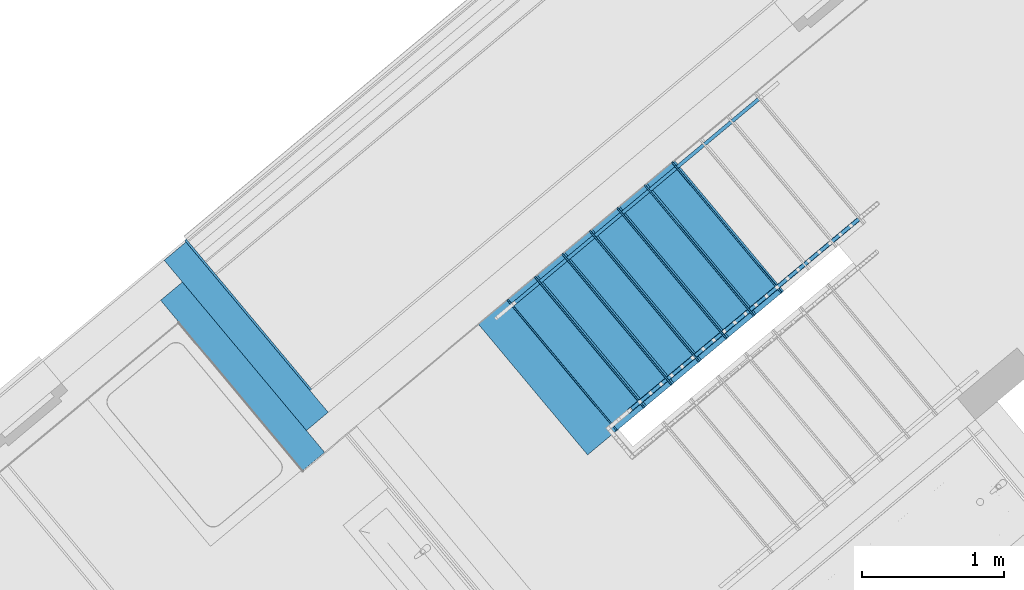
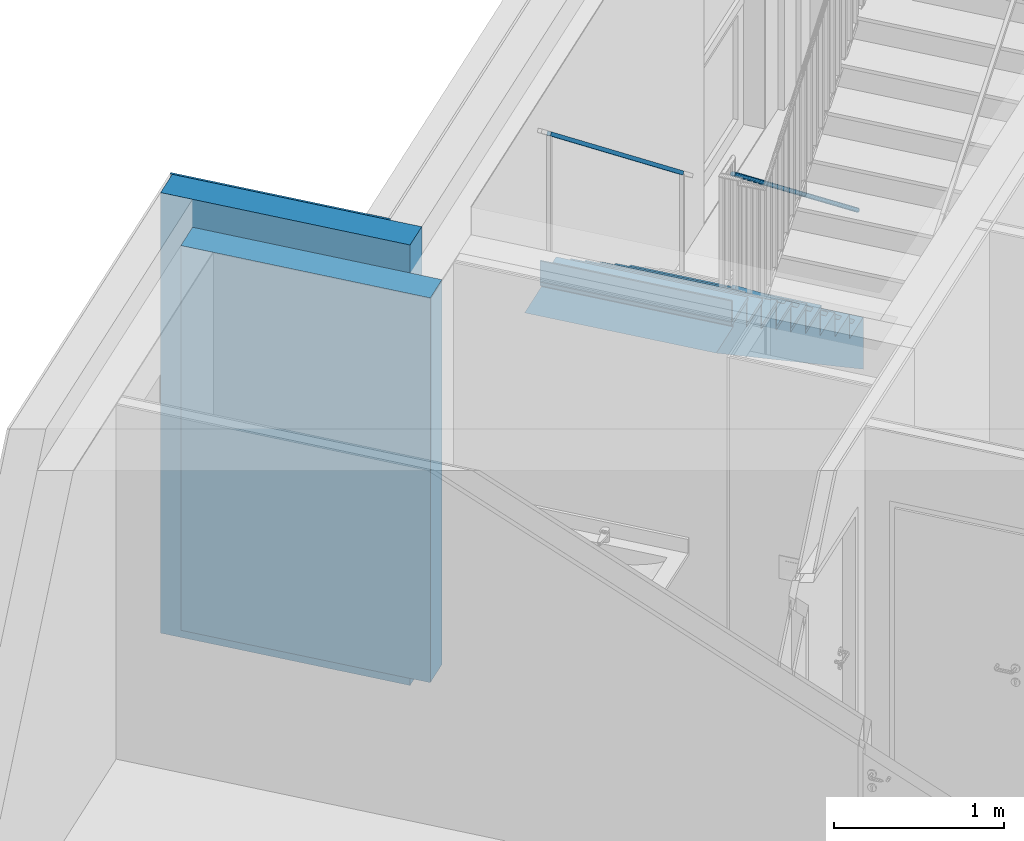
# One storey, part 30 of 50: 20 building element parts, 4 elements without a shape of their own.
"""IFC4 building model written with IfcOpenShell, lengths in metres."""

import ifcopenshell
import ifcopenshell.guid

model = None  # the IFC model being written
_history = None  # IfcOwnerHistory: only IFC2X3 demands one
_inside = {}  # id of a spatial element -> (the spatial element, [elements in it])
_under = {}  # id of a project, library or spatial element -> (it, [spatial elements below it])
_declared = {}  # id of a project -> (the project, [libraries it declares])
_typed = {}  # id of a type object -> (the type object, [elements of that type])
_made_of = {}  # id of a material, layer set ... -> (it, [elements and type objects made of it])


def new_model(schema):
    """Start an empty IFC model of exactly this schema.

    Asked for "IFC4X3", IfcOpenShell would pick the latest addendum, in which some entities
    have other attributes; the version numbers below select the first issue.
    IFC2X3 requires an IfcOwnerHistory on every rooted entity: one is made here for all.
    """
    global model, _history
    if schema == "IFC4X3":
        model = ifcopenshell.file(schema_version=(4, 3, 0, 0))
    else:
        model = ifcopenshell.file(schema=schema)
    _inside.clear()
    _under.clear()
    _declared.clear()
    _typed.clear()
    _made_of.clear()
    _history = None
    if model.schema == "IFC2X3":
        org = make("IfcOrganization", Name="unknown")
        user = make(
            "IfcPersonAndOrganization",
            ThePerson=make("IfcPerson", FamilyName="unknown"),
            TheOrganization=org,
        )
        app = make(
            "IfcApplication",
            ApplicationDeveloper=org,
            Version="unknown",
            ApplicationFullName="unknown",
            ApplicationIdentifier="unknown",
        )
        _history = make(
            "IfcOwnerHistory",
            OwningUser=user,
            OwningApplication=app,
            ChangeAction="ADDED",
            CreationDate=0,
        )
    return model


def make(cls, **values):
    """One entity of the class cls with the attributes given. An attribute that is None is left unset."""
    return model.create_entity(
        cls, **{name: value for name, value in values.items() if value is not None}
    )


def entity(cls, *values):
    """Any entity or typed value of the class cls, its attributes in the order of the schema. None: left unset."""
    e = model.create_entity(cls)
    for i, value in enumerate(values):
        if value is not None:
            e[i] = value
    return e


def rooted(cls, **values):
    """An entity with a GlobalId (a new one), such as an element, a storey or a relation."""
    return make(cls, GlobalId=ifcopenshell.guid.new(), OwnerHistory=_history, **values)


def si_unit(unit_type, name, prefix=None):
    """IfcSIUnit, for example si_unit("LENGTHUNIT", "METRE", prefix="MILLI")."""
    return make("IfcSIUnit", UnitType=unit_type, Prefix=prefix, Name=name)


def converted_unit(unit_type, name, factor, base, dimensions=None, offset=None):
    """IfcConversionBasedUnit, such as the inch: factor (a typed value) times the base unit."""
    return make(
        "IfcConversionBasedUnit"
        if offset is None
        else "IfcConversionBasedUnitWithOffset",
        ConversionOffset=offset,
        Dimensions=None
        if dimensions is None
        else entity("IfcDimensionalExponents", *dimensions),
        UnitType=unit_type,
        Name=name,
        ConversionFactor=make(
            "IfcMeasureWithUnit", ValueComponent=factor, UnitComponent=base
        ),
    )


def derived_unit(unit_type, elements):
    """IfcDerivedUnit: a product of units, each with its exponent."""
    return make(
        "IfcDerivedUnit",
        Elements=[
            make("IfcDerivedUnitElement", Unit=unit, Exponent=power)
            for unit, power in elements
        ],
        UnitType=unit_type,
    )


def assignment(units):
    """IfcUnitAssignment: the units of a project."""
    return None if units is None else make("IfcUnitAssignment", Units=units)


def point(xyz):
    """IfcCartesianPoint."""
    return None if xyz is None else make("IfcCartesianPoint", Coordinates=xyz)


def direction(xyz):
    """IfcDirection."""
    return None if xyz is None else make("IfcDirection", DirectionRatios=xyz)


def frame(location, z_axis=None, x_axis=None):
    """IfcAxis2Placement3D, a coordinate frame: its origin and axes. An axis left out is left unset."""
    return make(
        "IfcAxis2Placement3D",
        Location=point(location),
        Axis=direction(z_axis),
        RefDirection=direction(x_axis),
    )


def origin_with_axes():
    """The frame at (0, 0, 0) with the z axis (0, 0, 1) and the x axis (1, 0, 0) written out."""
    return frame((0.0, 0.0, 0.0), z_axis=(0.0, 0.0, 1.0), x_axis=(1.0, 0.0, 0.0))


def place(relative_to, where):
    """IfcLocalPlacement: puts the frame where relative to a parent placement (None: the world)."""
    return make(
        "IfcLocalPlacement", PlacementRelTo=relative_to, RelativePlacement=where
    )


def context(
    kind, dimensions, precision=None, world=None, true_north=None, identifier=None
):
    """IfcGeometricRepresentationContext, for example the 3D "Model" context."""
    return make(
        "IfcGeometricRepresentationContext",
        ContextIdentifier=identifier,
        ContextType=kind,
        CoordinateSpaceDimension=dimensions,
        Precision=precision,
        WorldCoordinateSystem=world,
        TrueNorth=true_north,
    )


def subcontext(parent, identifier, kind, view, scale=None):
    """IfcGeometricRepresentationSubContext, for example "Body" below "Model"."""
    return make(
        "IfcGeometricRepresentationSubContext",
        ContextIdentifier=identifier,
        ContextType=kind,
        ParentContext=parent,
        TargetScale=scale,
        TargetView=view,
    )


def project(units=None, contexts=None):
    """IfcProject with its units and contexts."""
    return rooted(
        "IfcProject",
        Name="project",
        RepresentationContexts=contexts,
        UnitsInContext=assignment(units),
    )


def spatial(cls, under=None, at=None, **own):
    """A site, building, storey or space (cls), placed at a placement, below another one or the project."""
    s = rooted(cls, ObjectPlacement=at, **own)
    if under is not None:
        _under.setdefault(under.id(), (under, []))[1].append(s)
    return s


def point_list(points):
    """IfcCartesianPointList2D or 3D."""
    cls = (
        "IfcCartesianPointList2D" if len(points[0]) == 2 else "IfcCartesianPointList3D"
    )
    return make(cls, CoordList=points)


def polygons(points, faces, closed=None, point_numbers=None):
    """IfcPolygonalFaceSet: a face is its outer loop, then its inner loops; points numbered from 1."""
    made = []
    for loops in faces:
        if len(loops) == 1:
            made.append(make("IfcIndexedPolygonalFace", CoordIndex=loops[0]))
        else:
            made.append(
                make(
                    "IfcIndexedPolygonalFaceWithVoids",
                    CoordIndex=loops[0],
                    InnerCoordIndices=loops[1:],
                )
            )
    return make(
        "IfcPolygonalFaceSet",
        Coordinates=point_list(points),
        Closed=closed,
        Faces=made,
        PnIndex=point_numbers,
    )


def shape(context_of_items, identifier, shape_type, items):
    """IfcShapeRepresentation: the items that make up one representation, for example the "Body"."""
    return make(
        "IfcShapeRepresentation",
        ContextOfItems=context_of_items,
        RepresentationIdentifier=identifier,
        RepresentationType=shape_type,
        Items=items,
    )


def material(Name=None, Category=None):
    """IfcMaterial."""
    return make("IfcMaterial", Name=Name, Category=Category)


def made_of(thing, what):
    """Note that an element or type object is made of a material, layer set ...; save() writes the relation."""
    if what is not None:
        _made_of.setdefault(what.id(), (what, []))[1].append(thing)
    return thing


def type_object(cls, material=None, **own):
    """A type object (cls), such as IfcWallType, which elements share."""
    return made_of(rooted(cls, **own), material)


def element(
    cls,
    number,
    at=None,
    inside=None,
    cuts=None,
    type_object=None,
    material=None,
    context=None,
    identifier="Body",
    shape_type=None,
    held_by="IfcProductDefinitionShape",
    body=None,
    shapes=None,
    **own,
):
    """One element of the class cls, such as IfcWall. Its Tag is "e" and its number.

    at: its placement. inside: the storey or other place that contains it. cuts: it is an
    opening in that element (IfcRelVoidsElement). A single representation is given by context,
    identifier, shape_type and body (its items); several are given by shapes. held_by: the class
    of the entity that holds the representations. save() writes the other relations.
    """
    e = rooted(cls, Tag="e%d" % number, ObjectPlacement=at, **own)
    if body is not None:
        shapes = [shape(context, identifier, shape_type, body)]
    if shapes is not None:
        e.Representation = make(held_by, Representations=shapes)
    if inside is not None:
        _inside.setdefault(inside.id(), (inside, []))[1].append(e)
    if cuts is not None:
        rooted(
            "IfcRelVoidsElement", RelatingBuildingElement=cuts, RelatedOpeningElement=e
        )
    if type_object is not None:
        _typed.setdefault(type_object.id(), (type_object, []))[1].append(e)
    return made_of(e, material)


def aggregate(whole, parts):
    """IfcRelAggregates: a whole, such as a stair, and the parts it consists of."""
    return rooted("IfcRelAggregates", RelatingObject=whole, RelatedObjects=parts)


def save(model, path):
    """Write the relations noted so far, then the file.

    IfcRelAggregates (storeys below a building ...), IfcRelContainedInSpatialStructure (elements
    in a storey), IfcRelDefinesByType, IfcRelAssociatesMaterial and IfcRelDeclares: one each for
    every whole, place, type object, material and project.
    """
    for whole, parts in _under.values():
        aggregate(whole, parts)
    for where, things in _inside.values():
        rooted(
            "IfcRelContainedInSpatialStructure",
            RelatedElements=things,
            RelatingStructure=where,
        )
    for kind, things in _typed.values():
        rooted("IfcRelDefinesByType", RelatedObjects=things, RelatingType=kind)
    for what, things in _made_of.values():
        rooted("IfcRelAssociatesMaterial", RelatedObjects=things, RelatingMaterial=what)
    for by, libraries in _declared.values():
        rooted("IfcRelDeclares", RelatingContext=by, RelatedDefinitions=libraries)
    model.write(path)


model = new_model("IFC4")

# Units and contexts
model_context = context("Model", 3, precision=1e-05, world=origin_with_axes(), true_north=direction((0.0, 1.0)))
body_context = subcontext(model_context, "Body", "Model", "MODEL_VIEW")
ifc_project = project(units=[si_unit("LENGTHUNIT", "METRE"), si_unit("AREAUNIT", "SQUARE_METRE"), si_unit("VOLUMEUNIT", "CUBIC_METRE"), converted_unit("PLANEANGLEUNIT", "DEGREE", entity("IfcPlaneAngleMeasure", 0.0174532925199), si_unit("PLANEANGLEUNIT", "RADIAN"), dimensions=[0, 0, 0, 0, 0, 0, 0]), converted_unit("TIMEUNIT", "Year", entity("IfcTimeMeasure", 31556926.0), si_unit("TIMEUNIT", "SECOND"), dimensions=[0, 0, 1, 0, 0, 0, 0]), si_unit("MASSUNIT", "GRAM", prefix="KILO"), si_unit("THERMODYNAMICTEMPERATUREUNIT", "DEGREE_CELSIUS"), si_unit("LUMINOUSINTENSITYUNIT", "LUMEN"), si_unit("ENERGYUNIT", "JOULE", prefix="MEGA"), derived_unit("THERMALCONDUCTANCEUNIT", [(si_unit("POWERUNIT", "WATT"), 1), (si_unit("LENGTHUNIT", "METRE"), -1), (si_unit("THERMODYNAMICTEMPERATUREUNIT", "KELVIN"), -1)]), derived_unit("SPECIFICHEATCAPACITYUNIT", [(si_unit("ENERGYUNIT", "JOULE"), 1), (si_unit("MASSUNIT", "GRAM", prefix="KILO"), -1), (si_unit("THERMODYNAMICTEMPERATUREUNIT", "KELVIN"), -1)]), derived_unit("MASSDENSITYUNIT", [(si_unit("MASSUNIT", "GRAM", prefix="KILO"), 1), (si_unit("VOLUMEUNIT", "CUBIC_METRE"), -1)])], contexts=[model_context])

# Site, building, storey
site_placement = place(None, frame((-0.00153261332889, -0.00661245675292, 0.0), z_axis=(0.0, 0.0, 1.0), x_axis=(1.0, 0.0, 0.0)))
site = spatial("IfcSite", under=ifc_project, at=site_placement, Name="Site", CompositionType="ELEMENT")
building_placement = place(site_placement, origin_with_axes())
building = spatial("IfcBuilding", under=site, at=building_placement, Name="Building", CompositionType="ELEMENT")
storey_placement = place(building_placement, frame((0.0, 0.0, 2.74), z_axis=(0.0, 0.0, 1.0), x_axis=(1.0, 0.0, 0.0)))
storey = spatial("IfcBuildingStorey", under=building, at=storey_placement, Name="OG1", CompositionType="ELEMENT", Elevation=2.74)

# Wall, building element parts
wall_type = type_object("IfcWallType", Name="AW EG 420", PredefinedType="NOTDEFINED")
wall_placement = place(storey_placement, frame((-4.30928730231, 22.6730576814, -0.2), z_axis=(0.0, 0.0, 1.0), x_axis=(-0.641206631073, 0.767368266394, 0.0)))
wall = element("IfcWall", 1, at=wall_placement, inside=storey, type_object=wall_type, Name="Wand-002", PredefinedType="NOTDEFINED")
ifc_material_1 = material(Name="Stahlbeton Wand")
building_element_part_1_placement = place(wall_placement, origin_with_axes())
building_element_part_1 = element("IfcBuildingElementPart", 2, at=building_element_part_1_placement, material=ifc_material_1, Name="Stahlbeton Wand", PredefinedType="NOTDEFINED", context=body_context, shape_type="Tessellation", body=[
    polygons([(1.14643888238, 0.215, 2.96), (-0.215000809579, 0.215, 2.96), (-0.41500080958, 0.215, 2.96), (-0.41500080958, 0.215, 0.2), (-0.215000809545, 0.214999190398, 0.2), (1.14643888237, 0.215004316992, 0.2), (-0.415001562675, 0.415, 2.96), (1.14643891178, 0.415, 2.96), (-0.415001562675, 0.415, 0.2), (1.14643888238, 0.415, 0.2)], [[[1, 2, 3, 4, 5, 6]], [[7, 3, 2, 1, 8]], [[3, 7, 9, 4]], [[5, 4, 9, 10, 6]], [[8, 1, 6, 10]], [[7, 8, 10, 9]]], closed=True),
])
ifc_material_2 = material(Name="EPS 1")
building_element_part_2_placement = place(wall_placement, origin_with_axes())
building_element_part_2 = element("IfcBuildingElementPart", 3, at=building_element_part_2_placement, material=ifc_material_2, Name="EPS 1", PredefinedType="NOTDEFINED", context=body_context, shape_type="Tessellation", body=[
    polygons([(1.34643888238, 0.215, 3.16), (1.34643888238, 0.215, 0.0), (-0.215000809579, 0.215, 0.0), (-0.215000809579, 0.215, 3.16), (1.34643888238, 0.135005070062, 0.0), (1.34643888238, 0.015, 3.16), (1.34643729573, 0.015, 0.2), (1.34643888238, 0.0234629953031, 0.2), (1.34643888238, 0.135005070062, 0.2), (-0.13500050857, 0.134999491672, 0.0), (-0.135000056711, 0.015, 0.0), (-0.215000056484, 0.015, 0.0), (-0.215000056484, 0.015, 3.16), (-0.135000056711, 0.015, 0.2), (-0.13500050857, 0.134999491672, 0.2)], [[[1, 2, 3, 4]], [[5, 2, 1, 6, 7, 8, 9]], [[2, 5, 10, 11, 12, 3]], [[4, 3, 12, 13]], [[6, 1, 4, 13]], [[11, 14, 7, 6, 13, 12]], [[9, 8, 7, 14, 15]], [[5, 9, 15, 10]], [[10, 15, 14, 11]]], closed=True),
])
ifc_material_3 = material(Name="Zementputz")
building_element_part_3_placement = place(wall_placement, origin_with_axes())
building_element_part_3 = element("IfcBuildingElementPart", 4, at=building_element_part_3_placement, material=ifc_material_3, Name="Zementputz", PredefinedType="NOTDEFINED", context=body_context, shape_type="Tessellation", body=[
    polygons([(-0.0150000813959, 0.0149999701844, 0.215), (-0.0150000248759, 0.0, 0.215), (-0.0150000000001, 0.0, 3.16), (-0.0150000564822, 0.015, 3.16), (1.14643605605, 0.0, 0.215), (1.14643887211, 0.0150000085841, 0.215), (1.14643605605, 0.0, 0.2), (1.34643448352, 0.0, 0.2), (1.34643448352, 0.0, 0.0), (1.36143888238, 0.0, 0.0), (1.36143888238, 0.0, 3.16), (1.36143888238, 0.015, 3.16), (1.36143888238, 0.015, 0.0), (1.34643729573, 0.015, 0.0), (1.34643729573, 0.015, 0.2), (1.14643887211, 0.0150000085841, 0.2)], [[[1, 2, 3, 4]], [[5, 2, 1, 6]], [[5, 7, 8, 9, 10, 11, 3, 2]], [[11, 12, 4, 3]], [[6, 1, 4, 12, 13, 14, 15, 16]], [[7, 5, 6, 16]], [[7, 16, 15, 8]], [[9, 8, 15, 14]], [[9, 14, 13, 10]], [[10, 13, 12, 11]]], closed=True),
])
aggregate(wall, [building_element_part_1, building_element_part_2, building_element_part_3])

# Railing, building element parts
railing_type = type_object("IfcRailingType", Name="Geländerart", PredefinedType="NOTDEFINED")
railing_1_placement = place(storey_placement, frame((-0.398547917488, 23.8355657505, 0.05), z_axis=(0.0, 0.0, 1.0), x_axis=(1.0, 0.0, 0.0)))
railing_1 = element("IfcRailing", 5, at=railing_1_placement, inside=storey, type_object=railing_type, Name="Geländer - 001", PredefinedType="NOTDEFINED")
ifc_material_4 = material(Name="BEKLEIDUNG")
building_element_part_4_placement = place(railing_1_placement, origin_with_axes())
building_element_part_4 = element("IfcBuildingElementPart", 6, at=building_element_part_4_placement, material=ifc_material_4, Name="BEKLEIDUNG", PredefinedType="NOTDEFINED", context=body_context, shape_type="Tessellation", body=[
    polygons([(-0.0295187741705, 0.0209453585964, 0.88817063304), (-0.0284358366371, 0.0221471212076, 0.890224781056), (-1.65968848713, -1.34078287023, 2.5475849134), (-1.66154123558, -1.34262781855, 2.54631289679), (-0.0308939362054, 0.0200933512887, 0.886116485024), (-0.0325195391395, 0.0196169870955, 0.884124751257), (-0.03434618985, 0.0195307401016, 0.88225594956), (-0.0363183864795, 0.0198372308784, 0.880566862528), (-0.0383762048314, 0.0205271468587, 0.879108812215), (-0.0404571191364, 0.0215795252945, 0.877926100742), (-0.0424979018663, 0.0229623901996, 0.877054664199), (-0.0444365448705, 0.0246337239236, 0.876520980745), (-0.0462141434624, 0.026542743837, 0.87634126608), (-0.0477766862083, 0.0286314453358, 0.876520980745), (-0.0490766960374, 0.030836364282, 0.877054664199), (-0.0500746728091, 0.0330905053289, 0.877926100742), (-0.050740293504, 0.0353253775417, 0.879108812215), (-0.0510533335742, 0.0374730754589, 0.880566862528), (-0.0510042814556, 0.0394683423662, 0.88225594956), (-0.0505946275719, 0.0412505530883, 0.884124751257), (-0.0498368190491, 0.0427655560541, 0.886116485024), (-0.0487538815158, 0.0439673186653, 0.88817063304), (-0.0473787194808, 0.0448193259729, 0.890224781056), (-0.0457531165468, 0.0452956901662, 0.892216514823), (-0.0439264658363, 0.04538193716, 0.89408531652), (-0.0419542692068, 0.0450754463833, 0.895774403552), (-0.0398964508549, 0.044385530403, 0.897232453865), (-0.0378155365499, 0.0433331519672, 0.898415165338), (-0.03577475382, 0.0419502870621, 0.899286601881), (-0.0338361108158, 0.0402789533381, 0.899820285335), (-0.0320585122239, 0.0383699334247, 0.9), (-0.030495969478, 0.0362812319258, 0.899820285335), (-0.0291959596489, 0.0340763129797, 0.899286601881), (-0.0281979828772, 0.0318221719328, 0.898415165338), (-0.0275323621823, 0.02958729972, 0.897232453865), (-0.0272193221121, 0.0274396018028, 0.895774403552), (-0.0272683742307, 0.0254443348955, 0.89408531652), (-0.0276780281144, 0.0236621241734, 0.892216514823), (-1.658184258, -1.33864422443, 2.54881828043), (-1.65707425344, -1.33627686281, 2.54997552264), (-1.65639220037, -1.33375271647, 2.55102147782), (-1.65615882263, -1.33114848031, 2.55192436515), (-1.65638121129, -1.32854328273, 2.55265675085), (-1.65705260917, -1.32601628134, 2.55319638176), (-1.6581526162, -1.3236442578, 2.55352686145), (-1.65964780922, -1.32149928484, 2.55363814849), (-1.66149275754, -1.31964653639, 2.55352686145), (-1.66363140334, -1.31814230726, 2.55319638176), (-1.66599876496, -1.31703230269, 2.55265675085), (-1.6685229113, -1.31635024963, 2.55192436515), (-1.67112714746, -1.31611687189, 2.55102147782), (-1.67373234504, -1.31633926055, 2.54997552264), (-1.67625934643, -1.31701065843, 2.54881828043), (-1.67863136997, -1.31811066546, 2.5475849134), (-1.68077634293, -1.31960585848, 2.54631289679), (-1.68262909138, -1.3214508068, 2.54504088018), (-1.68413332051, -1.3235894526, 2.54380751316), (-1.68524332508, -1.32595681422, 2.54265027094), (-1.68592537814, -1.32848096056, 2.54160431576), (-1.68615875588, -1.33108519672, 2.54070142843), (-1.68593636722, -1.3336903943, 2.53996904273), (-1.68526496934, -1.33621739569, 2.53942941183), (-1.68416496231, -1.33858941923, 2.53909893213), (-1.68266976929, -1.34073439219, 2.53898764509), (-1.68082482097, -1.34258714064, 2.53909893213), (-1.67868617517, -1.34409136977, 2.53942941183), (-1.67631881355, -1.34520137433, 2.53996904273), (-1.67379466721, -1.3458834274, 2.54070142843), (-1.67119043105, -1.34611680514, 2.54160431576), (-1.66858523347, -1.34589441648, 2.54265027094), (-1.66605823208, -1.3452230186, 2.54380751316), (-1.66368620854, -1.34412301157, 2.54504088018)], [[[1, 2, 3, 4]], [[1, 5, 6, 7, 8, 9, 10, 11, 12, 13, 14, 15, 16, 17, 18, 19, 20, 21, 22, 23, 24, 25, 26, 27, 28, 29, 30, 31, 32, 33, 34, 35, 36, 37, 38, 2]], [[2, 38, 39, 3]], [[4, 3, 39, 40, 41, 42, 43, 44, 45, 46, 47, 48, 49, 50, 51, 52, 53, 54, 55, 56, 57, 58, 59, 60, 61, 62, 63, 64, 65, 66, 67, 68, 69, 70, 71, 72]], [[5, 1, 4, 72]], [[6, 5, 72, 71]], [[7, 6, 71, 70]], [[8, 7, 70, 69]], [[9, 8, 69, 68]], [[10, 9, 68, 67]], [[11, 10, 67, 66]], [[12, 11, 66, 65]], [[13, 12, 65, 64]], [[14, 13, 64, 63]], [[15, 14, 63, 62]], [[16, 15, 62, 61]], [[17, 16, 61, 60]], [[18, 17, 60, 59]], [[19, 18, 59, 58]], [[20, 19, 58, 57]], [[21, 20, 57, 56]], [[22, 21, 56, 55]], [[23, 22, 55, 54]], [[24, 23, 54, 53]], [[25, 24, 53, 52]], [[26, 25, 52, 51]], [[27, 26, 51, 50]], [[28, 27, 50, 49]], [[29, 28, 49, 48]], [[30, 29, 48, 47]], [[31, 30, 47, 46]], [[32, 31, 46, 45]], [[33, 32, 45, 44]], [[34, 33, 44, 43]], [[35, 34, 43, 42]], [[36, 35, 42, 41]], [[37, 36, 41, 40]], [[38, 37, 40, 39]]], closed=True),
])
building_element_part_5_placement = place(railing_1_placement, origin_with_axes())
building_element_part_5 = element("IfcBuildingElementPart", 7, at=building_element_part_5_placement, material=ifc_material_4, Name="BEKLEIDUNG", PredefinedType="NOTDEFINED", context=body_context, shape_type="Tessellation", body=[
    polygons([(-0.0341749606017, 0.0528904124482, 0.0798578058), (-0.0459713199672, 0.0430344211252, 0.0601421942), (-1.67725492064, -1.31992142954, 1.71753377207), (-1.65806995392, -1.30389217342, 1.7297425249), (-0.0181457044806, 0.0337054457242, 0.0798578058), (-0.029942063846, 0.0238494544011, 0.0601421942), (-1.66122566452, -1.33910639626, 1.71753377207), (-1.6420406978, -1.32307714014, 1.7297425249)], [[[1, 2, 3, 4]], [[1, 5, 6, 2]], [[2, 6, 7, 3]], [[4, 3, 7, 8]], [[5, 1, 4, 8]], [[6, 5, 8, 7]]], closed=True),
])
aggregate(railing_1, [building_element_part_4, building_element_part_5])

# Railing, building element part
railing_2_placement = place(storey_placement, frame((-1.16795221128, 24.7564441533, 0.05), z_axis=(0.0, 0.0, 1.0), x_axis=(1.0, 0.0, 0.0)))
railing_2 = element("IfcRailing", 8, at=railing_2_placement, inside=storey, type_object=railing_type, Name="Geländer - 001", PredefinedType="NOTDEFINED")
building_element_part_6_placement = place(railing_2_placement, origin_with_axes())
building_element_part_6 = element("IfcBuildingElementPart", 9, at=building_element_part_6_placement, material=ifc_material_4, Name="BEKLEIDUNG", PredefinedType="NOTDEFINED", context=body_context, shape_type="Tessellation", body=[
    polygons([(0.0240438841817, -0.0287774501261, 0.9), (0.0122290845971, -0.0386488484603, 0.880303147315), (-1.72609254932, -1.49103618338, 2.65089138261), (-1.71427774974, -1.48116478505, 2.67058823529), (0.0400731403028, -0.0479624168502, 0.9), (0.0282583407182, -0.0578338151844, 0.880303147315), (-1.7100632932, -1.5102211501, 2.65089138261), (-1.69824849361, -1.50034975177, 2.67058823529)], [[[1, 2, 3, 4]], [[1, 5, 6, 2]], [[2, 6, 7, 3]], [[4, 3, 7, 8]], [[5, 1, 4, 8]], [[6, 5, 8, 7]]], closed=True),
])
aggregate(railing_2, [building_element_part_6])

# Stair, building element parts
stair_type = type_object("IfcStairType", Name="Treppentyp", PredefinedType="NOTDEFINED")
stair_placement = place(storey_placement, frame((-0.972083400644, 24.9200947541, 0.05), z_axis=(0.0, 0.0, 1.0), x_axis=(1.0, 0.0, 0.0)))
stair = element("IfcStair", 10, at=stair_placement, inside=storey, type_object=stair_type, Name="Treppe - 001", PredefinedType="NOTDEFINED")
ifc_material_5 = material(Name="Stahlbeton Decke")
building_element_part_7_placement = place(stair_placement, origin_with_axes())
building_element_part_7 = element("IfcBuildingElementPart", 11, at=building_element_part_7_placement, material=ifc_material_5, Name="Stahlbeton Decke", PredefinedType="NOTDEFINED", context=body_context, shape_type="Tessellation", body=[
    polygons([(-1.93419043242, -1.61603796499, 1.54558823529), (-1.16478618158, -2.53691636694, 1.54558823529), (-1.16478615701, -2.53691634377, 1.56852941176), (-1.93419045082, -1.61603794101, 1.56852941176), (-2.15516351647, -1.80066346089, 1.54558823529), (-1.38575924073, -2.72154184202, 1.54558823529), (-1.16478618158, -2.53691636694, 1.34302096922), (-1.10040387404, -2.48312422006, 1.28400133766), (-1.03602159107, -2.42933209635, 1.22498172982), (-0.971639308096, -2.37553997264, 1.16596212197), (-0.907257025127, -2.32174784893, 1.10694251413), (-0.842874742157, -2.26795572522, 1.04792290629), (-0.778492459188, -2.21416360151, 0.988903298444), (-0.714110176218, -2.1603714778, 0.929883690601), (-0.649727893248, -2.1065793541, 0.870864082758), (-0.585345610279, -2.05278723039, 0.811844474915), (-0.520963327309, -1.99899510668, 0.752824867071), (-0.45658104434, -1.94520298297, 0.693805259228), (-0.39219876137, -1.89141085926, 0.634785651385), (-0.3278164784, -1.83761873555, 0.575766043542), (-0.263434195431, -1.78382661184, 0.516746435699), (-0.199051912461, -1.73003448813, 0.457726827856), (-0.134669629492, -1.67624236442, 0.398707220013), (-0.0702873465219, -1.62245024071, 0.339687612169), (-0.00590506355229, -1.568658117, 0.280668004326), (0.0584772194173, -1.51486599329, 0.221648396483), (0.122859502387, -1.46107386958, 0.16262878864), (0.187241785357, -1.40728174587, 0.103609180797), (0.251624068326, -1.35348962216, 0.0445895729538), (0.316006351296, -1.29969749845, -0.0144300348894), (0.380388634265, -1.24590537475, -0.0734496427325), (0.444770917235, -1.19211325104, -0.132469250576), (0.509153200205, -1.13832112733, -0.191488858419), (0.54283953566, -1.11017581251, -0.222369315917), (0.54283953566, -1.11017581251, 0.152058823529), (0.361126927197, -1.26199874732, 0.152058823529), (0.361126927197, -1.26199874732, 0.329117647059), (0.167980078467, -1.42337511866, 0.329117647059), (0.167980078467, -1.42337511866, 0.506176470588), (-0.0251667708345, -1.58475148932, 0.506176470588), (-0.0251667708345, -1.58475148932, 0.683235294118), (-0.218313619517, -1.74612786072, 0.683235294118), (-0.218313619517, -1.74612786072, 0.860294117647), (-0.411460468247, -1.90750423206, 0.860294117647), (-0.411460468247, -1.90750423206, 1.03735294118), (-0.604607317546, -2.06888060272, 1.03735294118), (-0.604607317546, -2.06888060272, 1.21441176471), (-0.797754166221, -2.23025697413, 1.21441176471), (-0.797754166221, -2.23025697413, 1.39147058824), (-0.990901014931, -2.3916333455, 1.39147058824), (-0.990901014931, -2.3916333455, 1.56852941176), (-1.7603053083, -1.47075494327, 1.56852941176), (-1.7603053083, -1.47075494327, 1.39147058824), (-1.56715845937, -1.30937857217, 1.39147058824), (-1.56715845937, -1.30937857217, 1.21441176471), (-1.37401161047, -1.14800220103, 1.21441176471), (-1.37401161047, -1.14800220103, 1.03735294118), (-1.18086476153, -0.986625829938, 1.03735294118), (-1.18086476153, -0.986625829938, 0.860294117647), (-0.987717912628, -0.825249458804, 0.860294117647), (-0.987717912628, -0.825249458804, 0.683235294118), (-0.794571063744, -0.663873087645, 0.683235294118), (-0.794571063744, -0.663873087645, 0.506176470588), (-0.601424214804, -0.502496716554, 0.506176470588), (-0.601424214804, -0.502496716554, 0.329117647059), (-0.408277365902, -0.341120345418, 0.329117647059), (-0.408277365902, -0.341120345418, 0.152058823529), (-0.22656475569, -0.189297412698, 0.152058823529), (-0.22656475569, -0.189297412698, -0.222369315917), (-0.260251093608, -0.217442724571, -0.191488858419), (-0.324633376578, -0.27123484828, -0.132469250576), (-0.389015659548, -0.32502697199, -0.0734496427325), (-0.453397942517, -0.378819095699, -0.0144300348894), (-0.517780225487, -0.432611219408, 0.0445895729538), (-0.582162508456, -0.486403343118, 0.103609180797), (-0.646544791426, -0.540195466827, 0.16262878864), (-0.710927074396, -0.593987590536, 0.221648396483), (-0.775309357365, -0.647779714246, 0.280668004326), (-0.839691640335, -0.701571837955, 0.339687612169), (-0.904073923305, -0.755363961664, 0.398707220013), (-0.968456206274, -0.809156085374, 0.457726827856), (-1.03283848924, -0.862948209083, 0.516746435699), (-1.09722077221, -0.916740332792, 0.575766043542), (-1.16160305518, -0.970532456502, 0.634785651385), (-1.22598533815, -1.02432458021, 0.693805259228), (-1.29036762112, -1.07811670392, 0.752824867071), (-1.35474990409, -1.13190882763, 0.811844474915), (-1.41913218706, -1.18570095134, 0.870864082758), (-1.48351447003, -1.23949307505, 0.929883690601), (-1.547896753, -1.29328519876, 0.988903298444), (-1.61227903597, -1.34707732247, 1.04792290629), (-1.67666131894, -1.40086944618, 1.10694251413), (-1.74104360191, -1.45466156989, 1.16596212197), (-1.80542588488, -1.5084536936, 1.22498172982), (-1.86980816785, -1.5622458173, 1.28400133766), (-1.93419043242, -1.61603796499, 1.34302094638)], [[[1, 2, 3, 4]], [[2, 1, 5, 6]], [[7, 8, 9, 10, 11, 12, 13, 14, 15, 16, 17, 18, 19, 20, 21, 22, 23, 24, 25, 26, 27, 28, 29, 30, 31, 32, 33, 34, 35, 36, 37, 38, 39, 40, 41, 42, 43, 44, 45, 46, 47, 48, 49, 50, 51, 3, 2, 6]], [[52, 4, 3, 51]], [[1, 4, 52, 53, 54, 55, 56, 57, 58, 59, 60, 61, 62, 63, 64, 65, 66, 67, 68, 69, 70, 71, 72, 73, 74, 75, 76, 77, 78, 79, 80, 81, 82, 83, 84, 85, 86, 87, 88, 89, 90, 91, 92, 93, 94, 95, 96, 5]], [[96, 95, 8, 7, 6, 5]], [[95, 94, 9, 8]], [[94, 93, 10, 9]], [[93, 92, 11, 10]], [[92, 91, 12, 11]], [[91, 90, 13, 12]], [[90, 89, 14, 13]], [[89, 88, 15, 14]], [[88, 87, 16, 15]], [[87, 86, 17, 16]], [[86, 85, 18, 17]], [[85, 84, 19, 18]], [[84, 83, 20, 19]], [[83, 82, 21, 20]], [[82, 81, 22, 21]], [[81, 80, 23, 22]], [[80, 79, 24, 23]], [[79, 78, 25, 24]], [[78, 77, 26, 25]], [[77, 76, 27, 26]], [[76, 75, 28, 27]], [[75, 74, 29, 28]], [[74, 73, 30, 29]], [[73, 72, 31, 30]], [[72, 71, 32, 31]], [[71, 70, 33, 32]], [[70, 69, 34, 33]], [[69, 68, 35, 34]], [[36, 35, 68, 67]], [[37, 36, 67, 66]], [[65, 38, 37, 66]], [[39, 38, 65, 64]], [[63, 40, 39, 64]], [[41, 40, 63, 62]], [[61, 42, 41, 62]], [[43, 42, 61, 60]], [[59, 44, 43, 60]], [[45, 44, 59, 58]], [[57, 46, 45, 58]], [[47, 46, 57, 56]], [[55, 48, 47, 56]], [[49, 48, 55, 54]], [[53, 50, 49, 54]], [[51, 50, 53, 52]]], closed=True),
])
building_element_part_8_placement = place(stair_placement, origin_with_axes())
building_element_part_8 = element("IfcBuildingElementPart", 12, at=building_element_part_8_placement, material=ifc_material_4, Name="BEKLEIDUNG", PredefinedType="NOTDEFINED", context=body_context, shape_type="Tessellation", body=[
    polygons([(-0.7868203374, -0.657397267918, 0.683235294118), (-0.794494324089, -0.663808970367, 0.683235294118), (-0.0250900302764, -1.58468737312, 0.683235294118), (-0.0174160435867, -1.57827567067, 0.683235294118), (-0.7868203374, -0.657397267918, 0.531176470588), (-0.794494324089, -0.663808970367, 0.531176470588), (-0.0250900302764, -1.58468737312, 0.531176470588), (-0.0174160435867, -1.57827567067, 0.531176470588)], [[[1, 2, 3, 4]], [[1, 5, 6, 2]], [[2, 6, 7, 3]], [[4, 3, 7, 8]], [[5, 1, 4, 8]], [[6, 5, 8, 7]]], closed=True),
])
building_element_part_9_placement = place(stair_placement, origin_with_axes())
building_element_part_9 = element("IfcBuildingElementPart", 13, at=building_element_part_9_placement, material=ifc_material_4, Name="BEKLEIDUNG", PredefinedType="NOTDEFINED", context=body_context, shape_type="Tessellation", body=[
    polygons([(-0.979967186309, -0.818773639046, 0.860294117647), (-0.987641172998, -0.825185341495, 0.860294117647), (-0.218236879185, -1.74606374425, 0.860294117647), (-0.210562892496, -1.7396520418, 0.860294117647), (-0.979967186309, -0.818773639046, 0.708235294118), (-0.987641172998, -0.825185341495, 0.708235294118), (-0.218236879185, -1.74606374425, 0.708235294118), (-0.210562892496, -1.7396520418, 0.708235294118)], [[[1, 2, 3, 4]], [[1, 5, 6, 2]], [[2, 6, 7, 3]], [[4, 3, 7, 8]], [[5, 1, 4, 8]], [[6, 5, 8, 7]]], closed=True),
])
building_element_part_10_placement = place(stair_placement, origin_with_axes())
building_element_part_10 = element("IfcBuildingElementPart", 14, at=building_element_part_10_placement, material=ifc_material_4, Name="BEKLEIDUNG", PredefinedType="NOTDEFINED", context=body_context, shape_type="Tessellation", body=[
    polygons([(-1.17311403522, -0.980150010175, 1.03735294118), (-1.18078802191, -0.986561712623, 1.03735294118), (-0.411383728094, -1.90744011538, 1.03735294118), (-0.403709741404, -1.90102841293, 1.03735294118), (-1.17311403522, -0.980150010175, 0.885294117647), (-1.18078802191, -0.986561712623, 0.885294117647), (-0.411383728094, -1.90744011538, 0.885294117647), (-0.403709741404, -1.90102841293, 0.885294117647)], [[[1, 2, 3, 4]], [[1, 5, 6, 2]], [[2, 6, 7, 3]], [[4, 3, 7, 8]], [[5, 1, 4, 8]], [[6, 5, 8, 7]]], closed=True),
])
building_element_part_11_placement = place(stair_placement, origin_with_axes())
building_element_part_11 = element("IfcBuildingElementPart", 15, at=building_element_part_11_placement, material=ifc_material_4, Name="BEKLEIDUNG", PredefinedType="NOTDEFINED", context=body_context, shape_type="Tessellation", body=[
    polygons([(-1.36626088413, -1.1415263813, 1.21441176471), (-1.37393487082, -1.14793808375, 1.21441176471), (-0.604530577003, -2.06881648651, 1.21441176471), (-0.596856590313, -2.06240478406, 1.21441176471), (-1.36626088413, -1.1415263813, 1.06235294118), (-1.37393487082, -1.14793808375, 1.06235294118), (-0.604530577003, -2.06881648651, 1.06235294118), (-0.596856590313, -2.06240478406, 1.06235294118)], [[[1, 2, 3, 4]], [[1, 5, 6, 2]], [[2, 6, 7, 3]], [[4, 3, 7, 8]], [[5, 1, 4, 8]], [[6, 5, 8, 7]]], closed=True),
])
building_element_part_12_placement = place(stair_placement, origin_with_axes())
building_element_part_12 = element("IfcBuildingElementPart", 16, at=building_element_part_12_placement, material=ifc_material_4, Name="BEKLEIDUNG", PredefinedType="NOTDEFINED", context=body_context, shape_type="Tessellation", body=[
    polygons([(-1.55940773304, -1.30290275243, 1.39147058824), (-1.56708171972, -1.30931445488, 1.39147058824), (-0.797677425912, -2.23019285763, 1.39147058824), (-0.790003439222, -2.22378115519, 1.39147058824), (-1.55940773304, -1.30290275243, 1.23941176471), (-1.56708171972, -1.30931445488, 1.23941176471), (-0.797677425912, -2.23019285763, 1.23941176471), (-0.790003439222, -2.22378115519, 1.23941176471)], [[[1, 2, 3, 4]], [[1, 5, 6, 2]], [[2, 6, 7, 3]], [[4, 3, 7, 8]], [[5, 1, 4, 8]], [[6, 5, 8, 7]]], closed=True),
])
building_element_part_13_placement = place(stair_placement, origin_with_axes())
building_element_part_13 = element("IfcBuildingElementPart", 17, at=building_element_part_13_placement, material=ifc_material_4, Name="BEKLEIDUNG", PredefinedType="NOTDEFINED", context=body_context, shape_type="Tessellation", body=[
    polygons([(-1.75255458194, -1.46427912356, 1.56852941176), (-1.76022856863, -1.47069082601, 1.56852941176), (-0.990824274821, -2.39156922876, 1.56852941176), (-0.983150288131, -2.38515752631, 1.56852941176), (-1.75255458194, -1.46427912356, 1.41647058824), (-1.76022856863, -1.47069082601, 1.41647058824), (-0.990824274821, -2.39156922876, 1.41647058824), (-0.983150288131, -2.38515752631, 1.41647058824)], [[[1, 2, 3, 4]], [[1, 5, 6, 2]], [[2, 6, 7, 3]], [[4, 3, 7, 8]], [[5, 1, 4, 8]], [[6, 5, 8, 7]]], closed=True),
])
building_element_part_14_placement = place(stair_placement, origin_with_axes())
building_element_part_14 = element("IfcBuildingElementPart", 18, at=building_element_part_14_placement, material=ifc_material_4, Name="BEKLEIDUNG", PredefinedType="NOTDEFINED", context=body_context, shape_type="Tessellation", body=[
    polygons([(-1.94570143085, -1.62565549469, 1.74558823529), (-1.95337541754, -1.63206719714, 1.74558823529), (-1.18397112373, -2.55294559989, 1.74558823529), (-1.17629713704, -2.54653389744, 1.74558823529), (-1.94570143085, -1.62565549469, 1.59352941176), (-1.95337541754, -1.63206719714, 1.59352941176), (-1.18397112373, -2.55294559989, 1.59352941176), (-1.17629713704, -2.54653389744, 1.59352941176)], [[[1, 2, 3, 4]], [[1, 5, 6, 2]], [[2, 6, 7, 3]], [[4, 3, 7, 8]], [[5, 1, 4, 8]], [[6, 5, 8, 7]]], closed=True),
])
building_element_part_15_placement = place(stair_placement, origin_with_axes())
building_element_part_15 = element("IfcBuildingElementPart", 19, at=building_element_part_15_placement, material=ifc_material_4, Name="BEKLEIDUNG", PredefinedType="NOTDEFINED", context=body_context, shape_type="Tessellation", body=[
    polygons([(-0.00590506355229, -1.568658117, 0.683235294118), (-0.775309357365, -0.647779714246, 0.683235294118), (-0.775309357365, -0.647779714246, 0.708235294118), (-0.00590506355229, -1.568658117, 0.708235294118), (-0.218236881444, -1.74606374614, 0.683235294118), (-0.987641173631, -0.825185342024, 0.683235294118), (-0.987641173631, -0.825185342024, 0.708235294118), (-0.218236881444, -1.74606374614, 0.708235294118)], [[[1, 2, 3, 4]], [[1, 5, 6, 2]], [[2, 6, 7, 3]], [[4, 3, 7, 8]], [[5, 1, 4, 8]], [[6, 5, 8, 7]]], closed=True),
])
building_element_part_16_placement = place(stair_placement, origin_with_axes())
building_element_part_16 = element("IfcBuildingElementPart", 20, at=building_element_part_16_placement, material=ifc_material_4, Name="BEKLEIDUNG", PredefinedType="NOTDEFINED", context=body_context, shape_type="Tessellation", body=[
    polygons([(-0.199051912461, -1.73003448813, 0.860294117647), (-0.968456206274, -0.809156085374, 0.860294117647), (-0.968456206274, -0.809156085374, 0.885294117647), (-0.199051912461, -1.73003448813, 0.885294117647), (-0.411383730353, -1.90744011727, 0.860294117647), (-1.18078802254, -0.986561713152, 0.860294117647), (-1.18078802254, -0.986561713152, 0.885294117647), (-0.411383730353, -1.90744011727, 0.885294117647)], [[[1, 2, 3, 4]], [[1, 5, 6, 2]], [[2, 6, 7, 3]], [[4, 3, 7, 8]], [[5, 1, 4, 8]], [[6, 5, 8, 7]]], closed=True),
])
building_element_part_17_placement = place(stair_placement, origin_with_axes())
building_element_part_17 = element("IfcBuildingElementPart", 21, at=building_element_part_17_placement, material=ifc_material_4, Name="BEKLEIDUNG", PredefinedType="NOTDEFINED", context=body_context, shape_type="Tessellation", body=[
    polygons([(-0.39219876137, -1.89141085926, 1.03735294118), (-1.16160305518, -0.970532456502, 1.03735294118), (-1.16160305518, -0.970532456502, 1.06235294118), (-0.39219876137, -1.89141085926, 1.06235294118), (-0.604530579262, -2.06881648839, 1.03735294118), (-1.37393487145, -1.14793808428, 1.03735294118), (-1.37393487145, -1.14793808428, 1.06235294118), (-0.604530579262, -2.06881648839, 1.06235294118)], [[[1, 2, 3, 4]], [[1, 5, 6, 2]], [[2, 6, 7, 3]], [[4, 3, 7, 8]], [[5, 1, 4, 8]], [[6, 5, 8, 7]]], closed=True),
])
building_element_part_18_placement = place(stair_placement, origin_with_axes())
building_element_part_18 = element("IfcBuildingElementPart", 22, at=building_element_part_18_placement, material=ifc_material_4, Name="BEKLEIDUNG", PredefinedType="NOTDEFINED", context=body_context, shape_type="Tessellation", body=[
    polygons([(-0.585345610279, -2.05278723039, 1.21441176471), (-1.35474990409, -1.13190882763, 1.21441176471), (-1.35474990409, -1.13190882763, 1.23941176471), (-0.585345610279, -2.05278723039, 1.23941176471), (-0.797677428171, -2.23019285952, 1.21441176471), (-1.56708172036, -1.30931445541, 1.21441176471), (-1.56708172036, -1.30931445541, 1.23941176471), (-0.797677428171, -2.23019285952, 1.23941176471)], [[[1, 2, 3, 4]], [[1, 5, 6, 2]], [[2, 6, 7, 3]], [[4, 3, 7, 8]], [[5, 1, 4, 8]], [[6, 5, 8, 7]]], closed=True),
])
building_element_part_19_placement = place(stair_placement, origin_with_axes())
building_element_part_19 = element("IfcBuildingElementPart", 23, at=building_element_part_19_placement, material=ifc_material_4, Name="BEKLEIDUNG", PredefinedType="NOTDEFINED", context=body_context, shape_type="Tessellation", body=[
    polygons([(-0.778492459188, -2.21416360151, 1.39147058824), (-1.547896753, -1.29328519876, 1.39147058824), (-1.547896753, -1.29328519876, 1.41647058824), (-0.778492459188, -2.21416360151, 1.41647058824), (-0.99082427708, -2.39156923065, 1.39147058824), (-1.76022856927, -1.47069082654, 1.39147058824), (-1.76022856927, -1.47069082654, 1.41647058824), (-0.99082427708, -2.39156923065, 1.41647058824)], [[[1, 2, 3, 4]], [[1, 5, 6, 2]], [[2, 6, 7, 3]], [[4, 3, 7, 8]], [[5, 1, 4, 8]], [[6, 5, 8, 7]]], closed=True),
])
building_element_part_20_placement = place(stair_placement, origin_with_axes())
building_element_part_20 = element("IfcBuildingElementPart", 24, at=building_element_part_20_placement, material=ifc_material_4, Name="BEKLEIDUNG", PredefinedType="NOTDEFINED", context=body_context, shape_type="Tessellation", body=[
    polygons([(-0.971639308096, -2.37553997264, 1.56852941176), (-1.74104360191, -1.45466156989, 1.56852941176), (-1.74104360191, -1.45466156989, 1.59352941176), (-0.971639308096, -2.37553997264, 1.59352941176), (-1.16478615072, -2.53691633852, 1.56852941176), (-1.18397113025, -2.55294559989, 1.56852941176), (-1.95337541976, -1.63206719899, 1.56852941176), (-1.93419045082, -1.61603794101, 1.56852941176), (-1.93419045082, -1.61603794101, 1.59352941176), (-1.95337541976, -1.63206719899, 1.59352941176), (-1.18397113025, -2.55294559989, 1.59352941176), (-1.16478615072, -2.53691633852, 1.59352941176)], [[[1, 2, 3, 4]], [[1, 5, 6, 7, 8, 2]], [[2, 8, 9, 3]], [[4, 3, 9, 10, 11, 12]], [[5, 1, 4, 12]], [[6, 5, 12, 11]], [[7, 6, 11, 10]], [[8, 7, 10, 9]]], closed=True),
])
aggregate(stair, [building_element_part_7, building_element_part_8, building_element_part_9, building_element_part_10, building_element_part_11, building_element_part_12, building_element_part_13, building_element_part_14, building_element_part_15, building_element_part_16, building_element_part_17, building_element_part_18, building_element_part_19, building_element_part_20])

save(model, "model.ifc")
